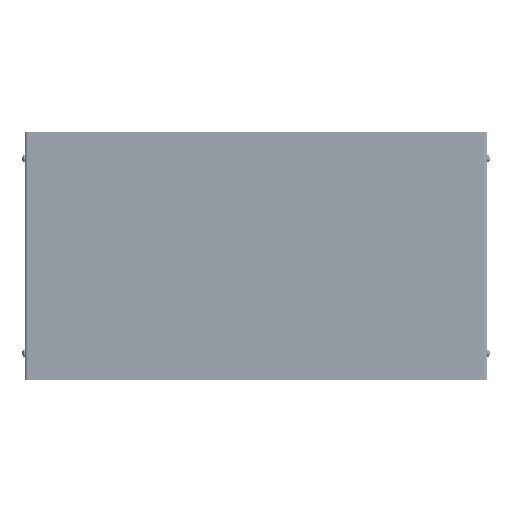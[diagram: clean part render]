
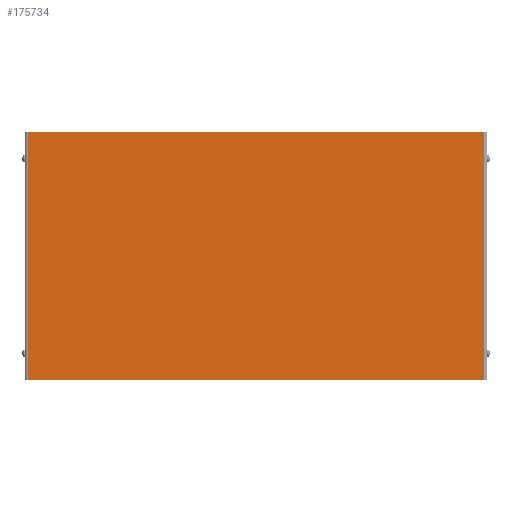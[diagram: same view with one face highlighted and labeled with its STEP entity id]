
A CAD part, top view. The second image highlights one B-rep face of the part: STEP entity #175734.
In plain terms, the highlighted planar face has unit normal (0, 0, 1).
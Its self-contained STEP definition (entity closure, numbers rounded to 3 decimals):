
#14119=PLANE('',#184496);
#23408=FACE_OUTER_BOUND('',#33544,.T.);
#33544=EDGE_LOOP('',(#165428,#165429,#165430,#165431));
#58154=LINE('',#340554,#74719);
#58162=LINE('',#340578,#74727);
#58175=LINE('',#340615,#74740);
#58178=LINE('',#340620,#74743);
#74719=VECTOR('',#217971,0.394);
#74727=VECTOR('',#217993,0.394);
#74740=VECTOR('',#218034,0.394);
#74743=VECTOR('',#218041,0.394);
#90999=VERTEX_POINT('',#340551);
#91000=VERTEX_POINT('',#340553);
#91008=VERTEX_POINT('',#340575);
#91009=VERTEX_POINT('',#340577);
#115803=EDGE_CURVE('',#91000,#90999,#58154,.T.);
#115815=EDGE_CURVE('',#91009,#91008,#58162,.T.);
#115835=EDGE_CURVE('',#91000,#91008,#58175,.T.);
#115838=EDGE_CURVE('',#91009,#90999,#58178,.T.);
#165428=ORIENTED_EDGE('',*,*,#115835,.F.);
#165429=ORIENTED_EDGE('',*,*,#115803,.T.);
#165430=ORIENTED_EDGE('',*,*,#115838,.F.);
#165431=ORIENTED_EDGE('',*,*,#115815,.T.);
#175734=ADVANCED_FACE('',(#23408),#14119,.T.);
#184496=AXIS2_PLACEMENT_3D('',#340623,#218046,#218047);
#217971=DIRECTION('',(1.,0.,0.));
#217993=DIRECTION('',(-1.,0.,0.));
#218034=DIRECTION('',(0.,1.,0.));
#218041=DIRECTION('',(0.,-1.,0.));
#218046=DIRECTION('center_axis',(0.,0.,1.));
#218047=DIRECTION('ref_axis',(1.,0.,0.));
#340551=CARTESIAN_POINT('',(16.571,0.,0.));
#340553=CARTESIAN_POINT('',(0.06,0.,0.));
#340554=CARTESIAN_POINT('',(-0.06,0.,0.));
#340575=CARTESIAN_POINT('',(0.06,9.,0.));
#340577=CARTESIAN_POINT('',(16.571,9.,0.));
#340578=CARTESIAN_POINT('',(16.691,9.,0.));
#340615=CARTESIAN_POINT('',(0.06,2.25,0.));
#340620=CARTESIAN_POINT('',(16.571,6.75,0.));
#340623=CARTESIAN_POINT('Origin',(8.316,4.5,0.));
